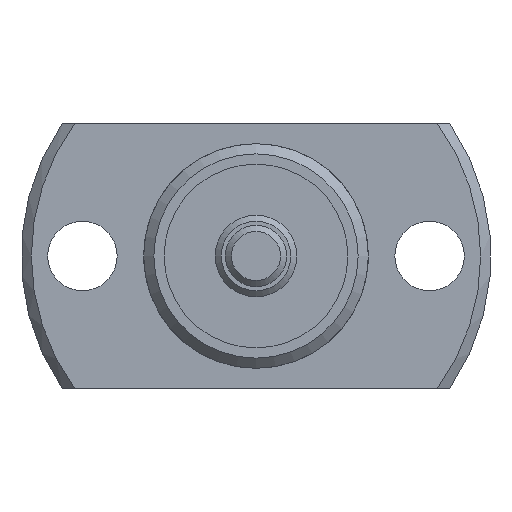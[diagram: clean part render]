
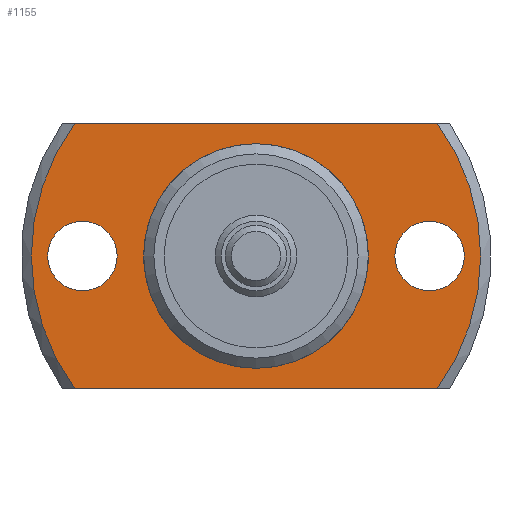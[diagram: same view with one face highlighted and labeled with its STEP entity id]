
A CAD part, left-side view. The second image highlights one B-rep face of the part: STEP entity #1155.
In plain terms, the highlighted planar face has unit normal (-1, 0, 0).
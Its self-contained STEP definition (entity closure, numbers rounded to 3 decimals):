
#107=LINE('',#1981,#173);
#108=LINE('',#1985,#174);
#173=VECTOR('',#1578,1000.);
#174=VECTOR('',#1581,1000.);
#335=ORIENTED_EDGE('',*,*,#607,.T.);
#336=ORIENTED_EDGE('',*,*,#608,.T.);
#337=ORIENTED_EDGE('',*,*,#596,.F.);
#338=ORIENTED_EDGE('',*,*,#609,.T.);
#339=ORIENTED_EDGE('',*,*,#610,.F.);
#340=ORIENTED_EDGE('',*,*,#611,.T.);
#341=ORIENTED_EDGE('',*,*,#590,.T.);
#590=EDGE_CURVE('',#735,#735,#824,.T.);
#596=EDGE_CURVE('',#740,#741,#827,.T.);
#607=EDGE_CURVE('',#750,#750,#833,.T.);
#608=EDGE_CURVE('',#751,#751,#834,.T.);
#609=EDGE_CURVE('',#740,#752,#107,.T.);
#610=EDGE_CURVE('',#753,#752,#835,.T.);
#611=EDGE_CURVE('',#753,#741,#108,.T.);
#735=VERTEX_POINT('',#1928);
#740=VERTEX_POINT('',#1942);
#741=VERTEX_POINT('',#1944);
#750=VERTEX_POINT('',#1978);
#751=VERTEX_POINT('',#1980);
#752=VERTEX_POINT('',#1982);
#753=VERTEX_POINT('',#1984);
#824=CIRCLE('',#1292,5.3);
#827=CIRCLE('',#1296,11.);
#833=CIRCLE('',#1307,1.7);
#834=CIRCLE('',#1308,1.7);
#835=CIRCLE('',#1309,11.);
#913=EDGE_LOOP('',(#335));
#914=EDGE_LOOP('',(#336));
#915=EDGE_LOOP('',(#337,#338,#339,#340));
#916=EDGE_LOOP('',(#341));
#1025=FACE_BOUND('',#913,.T.);
#1026=FACE_BOUND('',#914,.T.);
#1027=FACE_BOUND('',#915,.T.);
#1028=FACE_BOUND('',#916,.T.);
#1093=PLANE('',#1306);
#1155=ADVANCED_FACE('',(#1025,#1026,#1027,#1028),#1093,.F.);
#1292=AXIS2_PLACEMENT_3D('',#1927,#1540,#1541);
#1296=AXIS2_PLACEMENT_3D('',#1943,#1550,#1551);
#1306=AXIS2_PLACEMENT_3D('',#1976,#1572,#1573);
#1307=AXIS2_PLACEMENT_3D('',#1977,#1574,#1575);
#1308=AXIS2_PLACEMENT_3D('',#1979,#1576,#1577);
#1309=AXIS2_PLACEMENT_3D('',#1983,#1579,#1580);
#1540=DIRECTION('',(1.,0.,0.));
#1541=DIRECTION('',(0.,0.,-1.));
#1550=DIRECTION('',(1.,0.,0.));
#1551=DIRECTION('',(0.,0.,-1.));
#1572=DIRECTION('',(1.,0.,0.));
#1573=DIRECTION('',(0.,0.,-1.));
#1574=DIRECTION('',(1.,0.,0.));
#1575=DIRECTION('',(0.,0.,-1.));
#1576=DIRECTION('',(1.,0.,0.));
#1577=DIRECTION('',(0.,0.,-1.));
#1578=DIRECTION('',(0.,-1.,0.));
#1579=DIRECTION('',(1.,0.,0.));
#1580=DIRECTION('',(0.,0.,-1.));
#1581=DIRECTION('',(0.,1.,0.));
#1927=CARTESIAN_POINT('',(15.,0.,0.));
#1928=CARTESIAN_POINT('',(15.,0.,-5.3));
#1942=CARTESIAN_POINT('',(15.,8.874,-6.5));
#1943=CARTESIAN_POINT('',(15.,0.,0.));
#1944=CARTESIAN_POINT('',(15.,8.874,6.5));
#1976=CARTESIAN_POINT('',(15.,5.3,0.));
#1977=CARTESIAN_POINT('',(15.,-8.5,0.));
#1978=CARTESIAN_POINT('',(15.,-8.5,-1.7));
#1979=CARTESIAN_POINT('',(15.,8.5,0.));
#1980=CARTESIAN_POINT('',(15.,8.5,-1.7));
#1981=CARTESIAN_POINT('',(15.,5.3,-6.5));
#1982=CARTESIAN_POINT('',(15.,-8.874,-6.5));
#1983=CARTESIAN_POINT('',(15.,0.,0.));
#1984=CARTESIAN_POINT('',(15.,-8.874,6.5));
#1985=CARTESIAN_POINT('',(15.,5.3,6.5));
